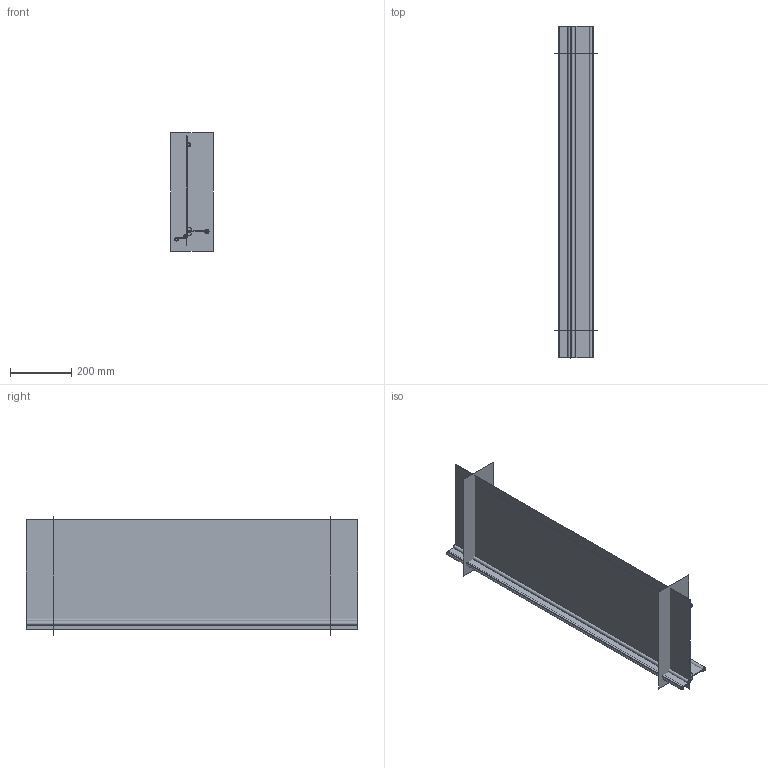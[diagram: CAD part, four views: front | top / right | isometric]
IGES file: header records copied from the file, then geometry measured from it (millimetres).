
Global section: file name: C:\Users\utente\Desktop\DANESE RG\3D Danese\archiviovivo\archiviovivo L.igs; native system: Rhinoceros ( Mar  9 2011 ); preprocessor: Trout Lake IGES 012 Mar  9 2011; date: 170512.104904; units: millimetre
Bounding box: 138.27 x 1080 x 385.55 mm (x, y, z)
Surface area: 1483403.3 mm2 (no closed solid volume)
Topology: 0 solids, 0 shells, 28 faces, 97 edges, 82 vertices
Faces by surface type: bspline 28
